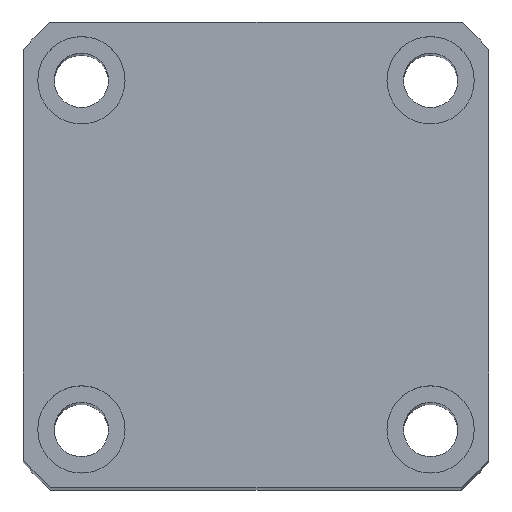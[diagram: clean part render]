
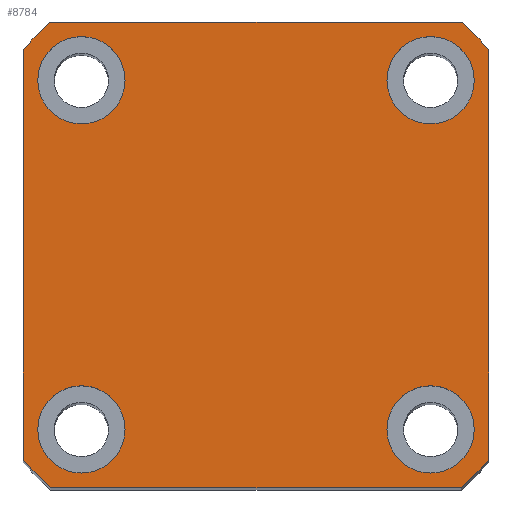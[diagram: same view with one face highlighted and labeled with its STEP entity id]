
A CAD part, top view. The second image highlights one B-rep face of the part: STEP entity #8784.
In plain terms, the highlighted planar face has unit normal (0, 0, 1) as drawn and (1, 0, 0) by its records, which use the part's own axes.
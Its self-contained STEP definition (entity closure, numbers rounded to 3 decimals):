
#132 = DIRECTION ( 'NONE',  ( 0., 0., 1. ) ) ;
#231 = VERTEX_POINT ( 'NONE', #8523 ) ;
#282 = DIRECTION ( 'NONE',  ( 1., 0., 0. ) ) ;
#385 = ORIENTED_EDGE ( 'NONE', *, *, #1715, .T. ) ;
#445 = CARTESIAN_POINT ( 'NONE',  ( 140., 0., 0. ) ) ;
#613 = DIRECTION ( 'NONE',  ( 1., 0., 0. ) ) ;
#662 = CARTESIAN_POINT ( 'NONE',  ( 140., 18., 13.5 ) ) ;
#870 = ORIENTED_EDGE ( 'NONE', *, *, #9325, .T. ) ;
#872 = DIRECTION ( 'NONE',  ( 1., 0., 0. ) ) ;
#899 = EDGE_CURVE ( 'NONE', #8766, #4317, #6610, .T. ) ;
#914 = AXIS2_PLACEMENT_3D ( 'NONE', #9668, #4643, #10535 ) ;
#939 = CARTESIAN_POINT ( 'NONE',  ( 140., -21.166, -24. ) ) ;
#1013 = VERTEX_POINT ( 'NONE', #4231 ) ;
#1107 = VERTEX_POINT ( 'NONE', #3509 ) ;
#1121 = ORIENTED_EDGE ( 'NONE', *, *, #7236, .F. ) ;
#1182 = CARTESIAN_POINT ( 'NONE',  ( 140., 0., 0. ) ) ;
#1229 = LINE ( 'NONE', #5036, #3674 ) ;
#1273 = DIRECTION ( 'NONE',  ( 0., 0., -1. ) ) ;
#1279 = AXIS2_PLACEMENT_3D ( 'NONE', #7571, #2627, #8429 ) ;
#1459 = CIRCLE ( 'NONE', #3210, 4.5 ) ;
#1472 = LINE ( 'NONE', #3422, #10065 ) ;
#1603 = FACE_OUTER_BOUND ( 'NONE', #10219, .T. ) ;
#1705 = CIRCLE ( 'NONE', #3808, 4.5 ) ;
#1714 = CIRCLE ( 'NONE', #2570, 32. ) ;
#1715 = EDGE_CURVE ( 'NONE', #231, #8709, #1714, .T. ) ;
#1750 = VERTEX_POINT ( 'NONE', #662 ) ;
#1897 = CARTESIAN_POINT ( 'NONE',  ( 140., 24., -21.166 ) ) ;
#1927 = AXIS2_PLACEMENT_3D ( 'NONE', #7530, #2596, #8395 ) ;
#2027 = EDGE_CURVE ( 'NONE', #8709, #6949, #7922, .T. ) ;
#2081 = DIRECTION ( 'NONE',  ( 1., 0., 0. ) ) ;
#2220 = EDGE_CURVE ( 'NONE', #8921, #9419, #2736, .T. ) ;
#2282 = CIRCLE ( 'NONE', #6501, 4.5 ) ;
#2562 = EDGE_CURVE ( 'NONE', #1107, #1013, #1705, .T. ) ;
#2570 = AXIS2_PLACEMENT_3D ( 'NONE', #10312, #10331, #10454 ) ;
#2596 = DIRECTION ( 'NONE',  ( 1., 0., 0. ) ) ;
#2627 = DIRECTION ( 'NONE',  ( 1., 0., 0. ) ) ;
#2696 = CARTESIAN_POINT ( 'NONE',  ( 140., 21.166, -24. ) ) ;
#2723 = DIRECTION ( 'NONE',  ( 0., 0., -1. ) ) ;
#2732 = DIRECTION ( 'NONE',  ( 1., 0., 0. ) ) ;
#2736 = CIRCLE ( 'NONE', #8481, 4.5 ) ;
#2748 = CARTESIAN_POINT ( 'NONE',  ( 140., -18., 18. ) ) ;
#3127 = CARTESIAN_POINT ( 'NONE',  ( 140., 18., -22.5 ) ) ;
#3153 = LINE ( 'NONE', #7455, #5081 ) ;
#3169 = ORIENTED_EDGE ( 'NONE', *, *, #6339, .T. ) ;
#3210 = AXIS2_PLACEMENT_3D ( 'NONE', #5534, #613, #6378 ) ;
#3422 = CARTESIAN_POINT ( 'NONE',  ( 140., 24., -24. ) ) ;
#3425 = ORIENTED_EDGE ( 'NONE', *, *, #8468, .T. ) ;
#3434 = ORIENTED_EDGE ( 'NONE', *, *, #4471, .T. ) ;
#3509 = CARTESIAN_POINT ( 'NONE',  ( 140., -18., 22.5 ) ) ;
#3546 = ORIENTED_EDGE ( 'NONE', *, *, #5302, .F. ) ;
#3559 = CARTESIAN_POINT ( 'NONE',  ( 140., 21.166, 24. ) ) ;
#3674 = VECTOR ( 'NONE', #132, 1000. ) ;
#3773 = VECTOR ( 'NONE', #6920, 1000. ) ;
#3796 = FACE_BOUND ( 'NONE', #7657, .T. ) ;
#3808 = AXIS2_PLACEMENT_3D ( 'NONE', #2748, #2732, #2723 ) ;
#4231 = CARTESIAN_POINT ( 'NONE',  ( 140., -18., 13.5 ) ) ;
#4287 = AXIS2_PLACEMENT_3D ( 'NONE', #4875, #10765, #5695 ) ;
#4303 = FACE_BOUND ( 'NONE', #10079, .T. ) ;
#4317 = VERTEX_POINT ( 'NONE', #3127 ) ;
#4443 = ORIENTED_EDGE ( 'NONE', *, *, #8604, .T. ) ;
#4471 = EDGE_CURVE ( 'NONE', #8673, #9417, #4482, .T. ) ;
#4482 = CIRCLE ( 'NONE', #4287, 32. ) ;
#4643 = DIRECTION ( 'NONE',  ( 1., 0., 0. ) ) ;
#4712 = CIRCLE ( 'NONE', #7473, 32. ) ;
#4875 = CARTESIAN_POINT ( 'NONE',  ( 140., 0., 0. ) ) ;
#5000 = DIRECTION ( 'NONE',  ( 0., 0., -1. ) ) ;
#5017 = DIRECTION ( 'NONE',  ( 1., 0., 0. ) ) ;
#5030 = CARTESIAN_POINT ( 'NONE',  ( 140., 18., -18. ) ) ;
#5036 = CARTESIAN_POINT ( 'NONE',  ( 140., 24., 24. ) ) ;
#5081 = VECTOR ( 'NONE', #9217, 1000. ) ;
#5111 = DIRECTION ( 'NONE',  ( 0., 1., 0. ) ) ;
#5187 = CARTESIAN_POINT ( 'NONE',  ( 140., 18., 18. ) ) ;
#5242 = CIRCLE ( 'NONE', #914, 4.5 ) ;
#5302 = EDGE_CURVE ( 'NONE', #8659, #1750, #5242, .T. ) ;
#5534 = CARTESIAN_POINT ( 'NONE',  ( 140., -18., -18. ) ) ;
#5695 = DIRECTION ( 'NONE',  ( 0., 0., -1. ) ) ;
#5791 = CARTESIAN_POINT ( 'NONE',  ( 140., -18., 18. ) ) ;
#5920 = EDGE_CURVE ( 'NONE', #1013, #1107, #6529, .T. ) ;
#5935 = DIRECTION ( 'NONE',  ( 0., 0., -1. ) ) ;
#5948 = DIRECTION ( 'NONE',  ( 1., 0., 0. ) ) ;
#5961 = CARTESIAN_POINT ( 'NONE',  ( 140., -18., -18. ) ) ;
#5977 = ORIENTED_EDGE ( 'NONE', *, *, #10456, .F. ) ;
#6035 = DIRECTION ( 'NONE',  ( 0., 0., -1. ) ) ;
#6124 = CARTESIAN_POINT ( 'NONE',  ( 140., 18., -13.5 ) ) ;
#6205 = DIRECTION ( 'NONE',  ( 1., 0., 0. ) ) ;
#6339 = EDGE_CURVE ( 'NONE', #10624, #8504, #4712, .T. ) ;
#6378 = DIRECTION ( 'NONE',  ( 0., 0., -1. ) ) ;
#6501 = AXIS2_PLACEMENT_3D ( 'NONE', #5187, #282, #6035 ) ;
#6529 = CIRCLE ( 'NONE', #7695, 4.5 ) ;
#6610 = CIRCLE ( 'NONE', #8167, 4.5 ) ;
#6627 = DIRECTION ( 'NONE',  ( 0., 0., -1. ) ) ;
#6646 = CARTESIAN_POINT ( 'NONE',  ( 140., -21.166, 24. ) ) ;
#6770 = ORIENTED_EDGE ( 'NONE', *, *, #8540, .T. ) ;
#6920 = DIRECTION ( 'NONE',  ( 0., -1., 0. ) ) ;
#6949 = VERTEX_POINT ( 'NONE', #6646 ) ;
#7036 = ORIENTED_EDGE ( 'NONE', *, *, #2220, .F. ) ;
#7159 = CARTESIAN_POINT ( 'NONE',  ( 140., -18., -13.5 ) ) ;
#7236 = EDGE_CURVE ( 'NONE', #1750, #8659, #2282, .T. ) ;
#7269 = CIRCLE ( 'NONE', #1927, 4.5 ) ;
#7455 = CARTESIAN_POINT ( 'NONE',  ( 140., -24., 24. ) ) ;
#7473 = AXIS2_PLACEMENT_3D ( 'NONE', #445, #6205, #1273 ) ;
#7530 = CARTESIAN_POINT ( 'NONE',  ( 140., 18., -18. ) ) ;
#7571 = CARTESIAN_POINT ( 'NONE',  ( 140., 0., 0. ) ) ;
#7657 = EDGE_LOOP ( 'NONE', ( #8353, #8252 ) ) ;
#7695 = AXIS2_PLACEMENT_3D ( 'NONE', #5791, #872, #6627 ) ;
#7748 = CARTESIAN_POINT ( 'NONE',  ( 140., -24., 21.166 ) ) ;
#7813 = EDGE_LOOP ( 'NONE', ( #5977, #7036 ) ) ;
#7829 = DIRECTION ( 'NONE',  ( 0., 0., -1. ) ) ;
#7922 = LINE ( 'NONE', #9230, #3773 ) ;
#8094 = ORIENTED_EDGE ( 'NONE', *, *, #5920, .F. ) ;
#8167 = AXIS2_PLACEMENT_3D ( 'NONE', #5030, #5017, #5000 ) ;
#8252 = ORIENTED_EDGE ( 'NONE', *, *, #899, .F. ) ;
#8353 = ORIENTED_EDGE ( 'NONE', *, *, #10656, .F. ) ;
#8355 = CARTESIAN_POINT ( 'NONE',  ( 140., -24., -21.166 ) ) ;
#8395 = DIRECTION ( 'NONE',  ( 0., 0., -1. ) ) ;
#8429 = DIRECTION ( 'NONE',  ( 0., 0., -1. ) ) ;
#8468 = EDGE_CURVE ( 'NONE', #9417, #231, #1229, .T. ) ;
#8481 = AXIS2_PLACEMENT_3D ( 'NONE', #5961, #5948, #5935 ) ;
#8489 = FACE_BOUND ( 'NONE', #7813, .T. ) ;
#8491 = ORIENTED_EDGE ( 'NONE', *, *, #2562, .F. ) ;
#8500 = AXIS2_PLACEMENT_3D ( 'NONE', #1182, #2081, #7829 ) ;
#8504 = VERTEX_POINT ( 'NONE', #939 ) ;
#8512 = CARTESIAN_POINT ( 'NONE',  ( 140., 18., 22.5 ) ) ;
#8523 = CARTESIAN_POINT ( 'NONE',  ( 140., 24., 21.166 ) ) ;
#8540 = EDGE_CURVE ( 'NONE', #9983, #10624, #3153, .T. ) ;
#8594 = CARTESIAN_POINT ( 'NONE',  ( 140., -18., -22.5 ) ) ;
#8604 = EDGE_CURVE ( 'NONE', #6949, #9983, #9285, .T. ) ;
#8655 = PLANE ( 'NONE',  #8500 ) ;
#8659 = VERTEX_POINT ( 'NONE', #8512 ) ;
#8673 = VERTEX_POINT ( 'NONE', #2696 ) ;
#8709 = VERTEX_POINT ( 'NONE', #3559 ) ;
#8766 = VERTEX_POINT ( 'NONE', #6124 ) ;
#8784 = ADVANCED_FACE ( 'NONE', ( #8489, #4303, #3796, #10483, #1603 ), #8655, .T. ) ;
#8921 = VERTEX_POINT ( 'NONE', #7159 ) ;
#9217 = DIRECTION ( 'NONE',  ( 0., 0., -1. ) ) ;
#9230 = CARTESIAN_POINT ( 'NONE',  ( 140., 24., 24. ) ) ;
#9285 = CIRCLE ( 'NONE', #1279, 32. ) ;
#9325 = EDGE_CURVE ( 'NONE', #8504, #8673, #1472, .T. ) ;
#9417 = VERTEX_POINT ( 'NONE', #1897 ) ;
#9419 = VERTEX_POINT ( 'NONE', #8594 ) ;
#9668 = CARTESIAN_POINT ( 'NONE',  ( 140., 18., 18. ) ) ;
#9983 = VERTEX_POINT ( 'NONE', #7748 ) ;
#10065 = VECTOR ( 'NONE', #5111, 1000. ) ;
#10079 = EDGE_LOOP ( 'NONE', ( #8094, #8491 ) ) ;
#10090 = ORIENTED_EDGE ( 'NONE', *, *, #2027, .T. ) ;
#10219 = EDGE_LOOP ( 'NONE', ( #870, #3434, #3425, #385, #10090, #4443, #6770, #3169 ) ) ;
#10312 = CARTESIAN_POINT ( 'NONE',  ( 140., 0., 0. ) ) ;
#10331 = DIRECTION ( 'NONE',  ( 1., 0., 0. ) ) ;
#10377 = EDGE_LOOP ( 'NONE', ( #1121, #3546 ) ) ;
#10454 = DIRECTION ( 'NONE',  ( 0., 0., -1. ) ) ;
#10456 = EDGE_CURVE ( 'NONE', #9419, #8921, #1459, .T. ) ;
#10483 = FACE_BOUND ( 'NONE', #10377, .T. ) ;
#10535 = DIRECTION ( 'NONE',  ( 0., 0., -1. ) ) ;
#10624 = VERTEX_POINT ( 'NONE', #8355 ) ;
#10656 = EDGE_CURVE ( 'NONE', #4317, #8766, #7269, .T. ) ;
#10765 = DIRECTION ( 'NONE',  ( 1., 0., 0. ) ) ;
